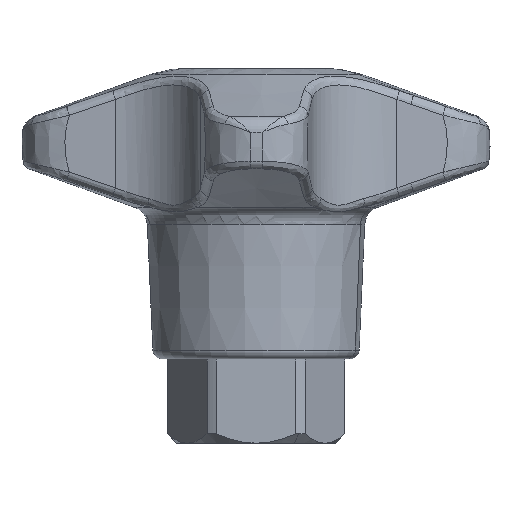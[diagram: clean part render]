
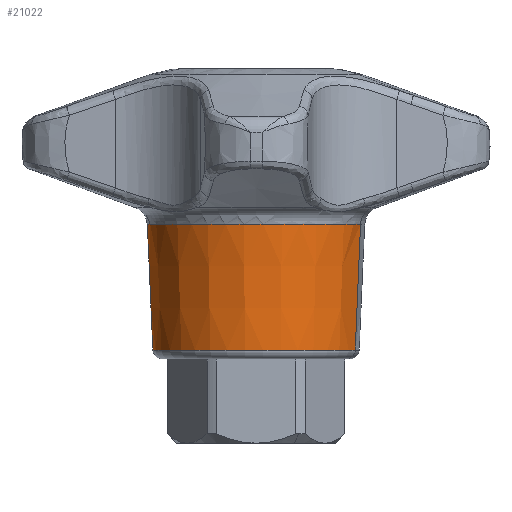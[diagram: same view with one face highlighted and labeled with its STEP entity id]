
A CAD part, left-side view. The second image highlights one B-rep face of the part: STEP entity #21022.
In plain terms, the highlighted conical face has half-angle 2.5 degrees and reference radius 11 mm.
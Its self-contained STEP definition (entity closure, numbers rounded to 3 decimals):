
#20774=CARTESIAN_POINT('Vertex',(-5.575,10.205,14.396)) ;
#20781=CARTESIAN_POINT('Vertex',(5.575,-10.205,14.396)) ;
#20964=CARTESIAN_POINT('Axis2P3D Location',(0.,0.,14.396)) ;
#20980=CARTESIAN_POINT('Axis2P3D Location',(0.,0.,0.)) ;
#20985=CARTESIAN_POINT('Line Origine',(5.424,-9.929,7.198)) ;
#20989=CARTESIAN_POINT('Vertex',(5.294,-9.69,0.956)) ;
#20992=CARTESIAN_POINT('Line Origine',(-5.424,9.929,7.198)) ;
#20996=CARTESIAN_POINT('Vertex',(-5.294,9.69,0.956)) ;
#21011=CARTESIAN_POINT('Axis2P3D Location',(0.,0.,0.956)) ;
#20965=DIRECTION('Axis2P3D Direction',(0.,0.,1.)) ;
#20981=DIRECTION('Axis2P3D Direction',(0.,0.,1.)) ;
#20982=DIRECTION('Axis2P3D XDirection',(-0.479,0.878,0.)) ;
#20986=DIRECTION('Vector Direction',(0.021,-0.038,0.999)) ;
#20993=DIRECTION('Vector Direction',(-0.021,0.038,0.999)) ;
#21012=DIRECTION('Axis2P3D Direction',(0.,0.,1.)) ;
#20966=AXIS2_PLACEMENT_3D('Circle Axis2P3D',#20964,#20965,$) ;
#20983=AXIS2_PLACEMENT_3D('Cone Axis2P3D',#20980,#20981,#20982) ;
#21013=AXIS2_PLACEMENT_3D('Circle Axis2P3D',#21011,#21012,$) ;
#21017=ORIENTED_EDGE('',*,*,#20998,.T.) ;
#21018=ORIENTED_EDGE('',*,*,#20968,.F.) ;
#21019=ORIENTED_EDGE('',*,*,#20991,.F.) ;
#21020=ORIENTED_EDGE('',*,*,#21015,.T.) ;
#20987=VECTOR('Line Direction',#20986,1.) ;
#20994=VECTOR('Line Direction',#20993,1.) ;
#21022=ADVANCED_FACE('PartBody',(#21021),#20984,.T.) ;
#20967=CIRCLE('generated circle',#20966,11.629) ;
#21014=CIRCLE('generated circle',#21013,11.042) ;
#20984=CONICAL_SURFACE('Cone',#20983,11.,0.044) ;
#20968=EDGE_CURVE('',#20782,#20775,#20967,.T.) ;
#20991=EDGE_CURVE('',#20990,#20782,#20988,.T.) ;
#20998=EDGE_CURVE('',#20997,#20775,#20995,.T.) ;
#21015=EDGE_CURVE('',#20990,#20997,#21014,.T.) ;
#21016=EDGE_LOOP('',(#21017,#21018,#21019,#21020)) ;
#21021=FACE_OUTER_BOUND('',#21016,.T.) ;
#20988=LINE('Line',#20985,#20987) ;
#20995=LINE('Line',#20992,#20994) ;
#20775=VERTEX_POINT('',#20774) ;
#20782=VERTEX_POINT('',#20781) ;
#20990=VERTEX_POINT('',#20989) ;
#20997=VERTEX_POINT('',#20996) ;
